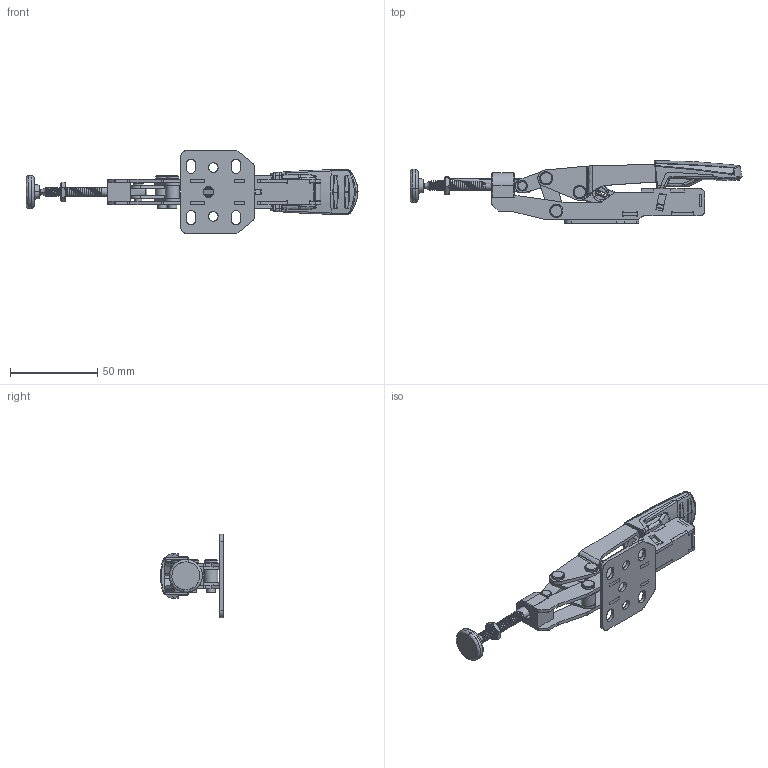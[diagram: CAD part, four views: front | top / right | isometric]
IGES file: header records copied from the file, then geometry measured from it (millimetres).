
Start section: ZWSOFT
Global section: file name: STC-IHH15.igs; native system: ZW3D; preprocessor: 1.0; author: ZW3D; organization: ZWSOFT; date: 200227.131158; units: millimetre
Bounding box: 190.61 x 36.13 x 48 mm (x, y, z)
Surface area: 43078.1 mm2 (no closed solid volume)
Topology: 0 solids, 0 shells, 1403 faces, 8315 edges, 8121 vertices
Faces by surface type: bspline 1403
